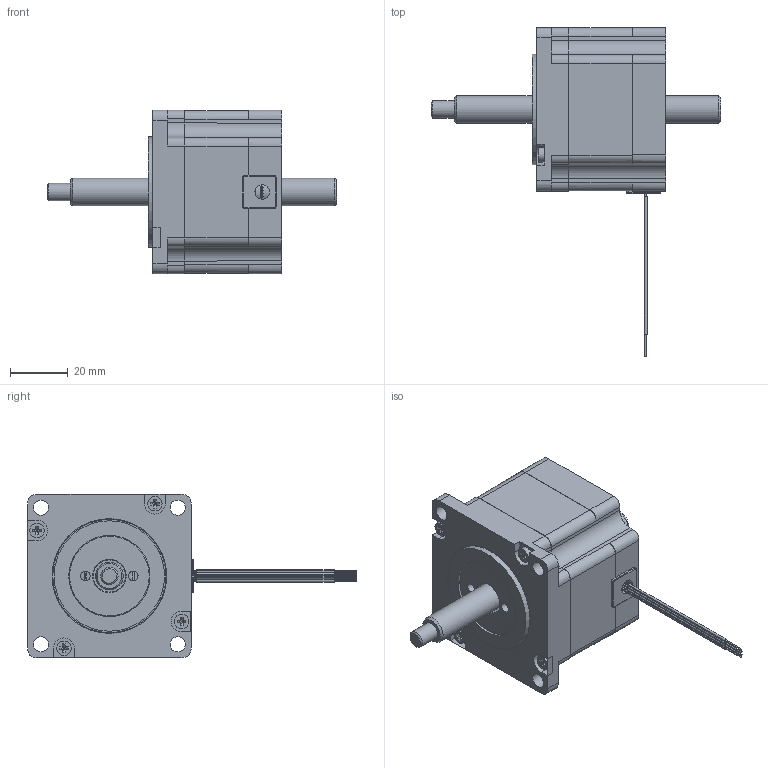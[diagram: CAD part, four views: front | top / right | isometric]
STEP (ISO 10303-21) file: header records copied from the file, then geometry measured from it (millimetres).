
FILE_DESCRIPTION( ('This file contains a STEP AP42 implementation' ,'as created by ZW3D STEP Interface translator.' ,'') ,'2;1' );
FILE_NAME( '57NA4X-XX-XXX.stp' ,'26 1 4. 844 9', (''), ('ZWCAD Software Co.'), 'Version 1.0', 'ZW3D to STEP translator', '' );
FILE_SCHEMA(('AUTOMOTIVE_DESIGN { 1 0 10303 214 1 1 1 1 }'));
Length unit declared in the file: millimetre
Products named in the file (1): 0
Bounding box: 100 x 113.4 x 56.4 mm (x, y, z)
Volume: 53990 mm3; surface area: 37425.9 mm2
Topology: 7 solids, 7 shells, 568 faces, 1501 edges, 980 vertices
Faces by surface type: plane 328, cylinder 166, bspline 35, torus 24, cone 15
Full cylindrical faces by diameter (mm): 2.5 x4, 3.3 x2, 5.21 x4, 6 x1, 9.53 x3, 11.1 x1, 12 x2, 14.27 x1, 21.95 x1, 28 x3, 34.82 x2, 38.1 x1, 50.27 x1
Entity records: 19310 total; most frequent: CARTESIAN_POINT 4548, ORIENTED_EDGE 2998, DIRECTION 2875, EDGE_CURVE 1499, VERTEX_POINT 980, AXIS2_PLACEMENT_3D 979, VECTOR 917, LINE 917
